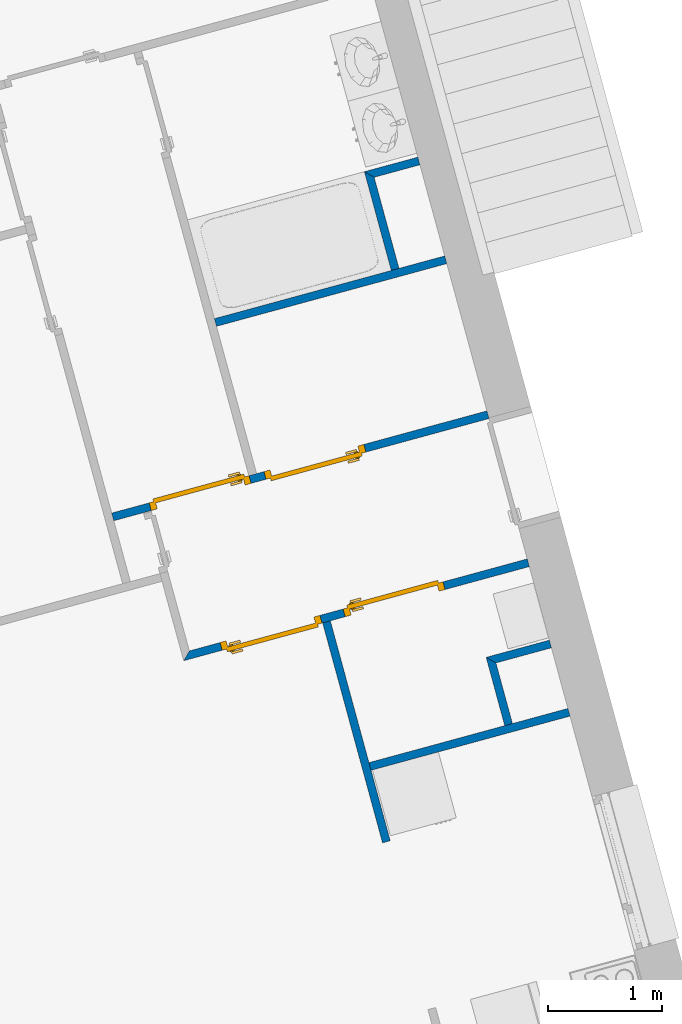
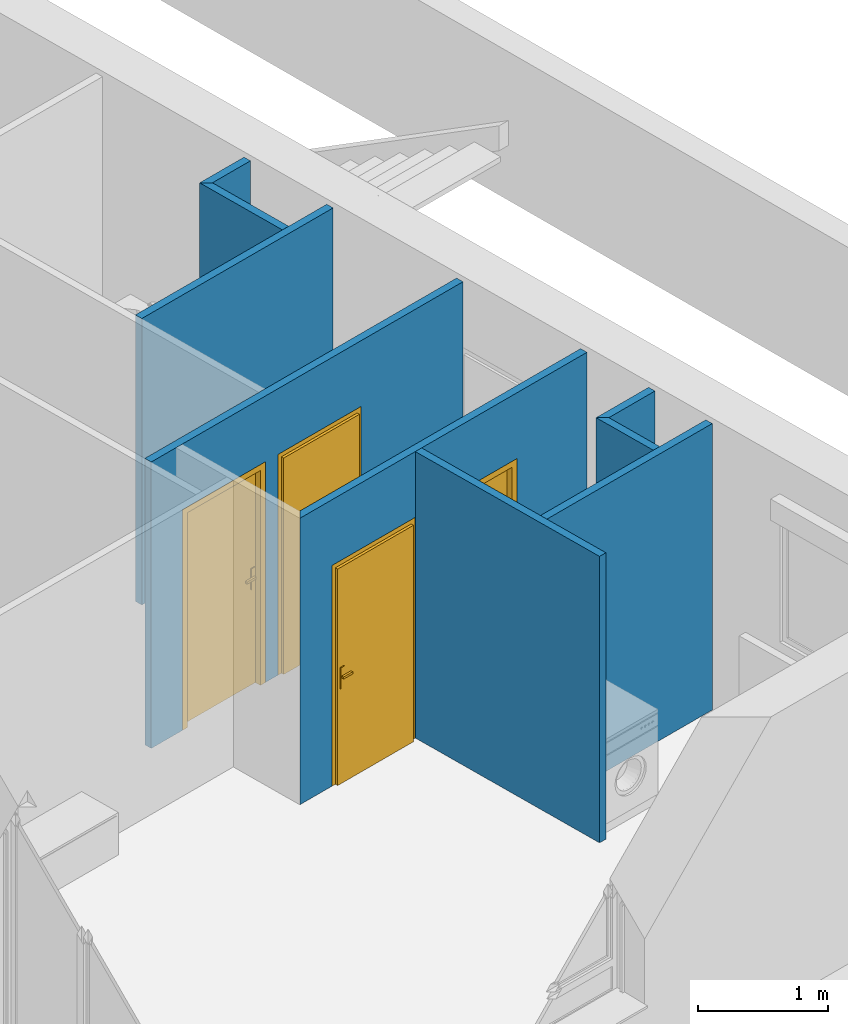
# One storey, part 80 of 195: 9 walls, 4 doors, 4 openings.
"""IFC2X3 building model written with IfcOpenShell, lengths in metres."""

import ifcopenshell
import ifcopenshell.guid

model = None  # the IFC model being written
_history = None  # IfcOwnerHistory: only IFC2X3 demands one
_inside = {}  # id of a spatial element -> (the spatial element, [elements in it])
_under = {}  # id of a project, library or spatial element -> (it, [spatial elements below it])
_declared = {}  # id of a project -> (the project, [libraries it declares])
_typed = {}  # id of a type object -> (the type object, [elements of that type])
_made_of = {}  # id of a material, layer set ... -> (it, [elements and type objects made of it])


def new_model(schema):
    """Start an empty IFC model of exactly this schema.

    Asked for "IFC4X3", IfcOpenShell would pick the latest addendum, in which some entities
    have other attributes; the version numbers below select the first issue.
    IFC2X3 requires an IfcOwnerHistory on every rooted entity: one is made here for all.
    """
    global model, _history
    if schema == "IFC4X3":
        model = ifcopenshell.file(schema_version=(4, 3, 0, 0))
    else:
        model = ifcopenshell.file(schema=schema)
    _inside.clear()
    _under.clear()
    _declared.clear()
    _typed.clear()
    _made_of.clear()
    _history = None
    if model.schema == "IFC2X3":
        org = make("IfcOrganization", Name="unknown")
        user = make(
            "IfcPersonAndOrganization",
            ThePerson=make("IfcPerson", FamilyName="unknown"),
            TheOrganization=org,
        )
        app = make(
            "IfcApplication",
            ApplicationDeveloper=org,
            Version="unknown",
            ApplicationFullName="unknown",
            ApplicationIdentifier="unknown",
        )
        _history = make(
            "IfcOwnerHistory",
            OwningUser=user,
            OwningApplication=app,
            ChangeAction="ADDED",
            CreationDate=0,
        )
    return model


def make(cls, **values):
    """One entity of the class cls with the attributes given. An attribute that is None is left unset."""
    return model.create_entity(
        cls, **{name: value for name, value in values.items() if value is not None}
    )


def entity(cls, *values):
    """Any entity or typed value of the class cls, its attributes in the order of the schema. None: left unset."""
    e = model.create_entity(cls)
    for i, value in enumerate(values):
        if value is not None:
            e[i] = value
    return e


def rooted(cls, **values):
    """An entity with a GlobalId (a new one), such as an element, a storey or a relation."""
    return make(cls, GlobalId=ifcopenshell.guid.new(), OwnerHistory=_history, **values)


def si_unit(unit_type, name, prefix=None):
    """IfcSIUnit, for example si_unit("LENGTHUNIT", "METRE", prefix="MILLI")."""
    return make("IfcSIUnit", UnitType=unit_type, Prefix=prefix, Name=name)


def converted_unit(unit_type, name, factor, base, dimensions=None, offset=None):
    """IfcConversionBasedUnit, such as the inch: factor (a typed value) times the base unit."""
    return make(
        "IfcConversionBasedUnit"
        if offset is None
        else "IfcConversionBasedUnitWithOffset",
        ConversionOffset=offset,
        Dimensions=None
        if dimensions is None
        else entity("IfcDimensionalExponents", *dimensions),
        UnitType=unit_type,
        Name=name,
        ConversionFactor=make(
            "IfcMeasureWithUnit", ValueComponent=factor, UnitComponent=base
        ),
    )


def derived_unit(unit_type, elements):
    """IfcDerivedUnit: a product of units, each with its exponent."""
    return make(
        "IfcDerivedUnit",
        Elements=[
            make("IfcDerivedUnitElement", Unit=unit, Exponent=power)
            for unit, power in elements
        ],
        UnitType=unit_type,
    )


def money_unit(currency):
    """IfcMonetaryUnit."""
    return make("IfcMonetaryUnit", Currency=currency)


def assignment(units):
    """IfcUnitAssignment: the units of a project."""
    return None if units is None else make("IfcUnitAssignment", Units=units)


def point(xyz):
    """IfcCartesianPoint."""
    return None if xyz is None else make("IfcCartesianPoint", Coordinates=xyz)


def direction(xyz):
    """IfcDirection."""
    return None if xyz is None else make("IfcDirection", DirectionRatios=xyz)


def frame(location, z_axis=None, x_axis=None):
    """IfcAxis2Placement3D, a coordinate frame: its origin and axes. An axis left out is left unset."""
    return make(
        "IfcAxis2Placement3D",
        Location=point(location),
        Axis=direction(z_axis),
        RefDirection=direction(x_axis),
    )


def frame_2d(location, x_axis=None):
    """IfcAxis2Placement2D, a coordinate frame in the plane: its origin and x axis."""
    return make(
        "IfcAxis2Placement2D", Location=point(location), RefDirection=direction(x_axis)
    )


def origin_with_axes():
    """The frame at (0, 0, 0) with the z axis (0, 0, 1) and the x axis (1, 0, 0) written out."""
    return frame((0.0, 0.0, 0.0), z_axis=(0.0, 0.0, 1.0), x_axis=(1.0, 0.0, 0.0))


def origin_2d_with_axis():
    """The frame at (0, 0) in the plane with the x axis (1, 0) written out."""
    return frame_2d((0.0, 0.0), x_axis=(1.0, 0.0))


def place(relative_to, where):
    """IfcLocalPlacement: puts the frame where relative to a parent placement (None: the world)."""
    return make(
        "IfcLocalPlacement", PlacementRelTo=relative_to, RelativePlacement=where
    )


def context(
    kind, dimensions, precision=None, world=None, true_north=None, identifier=None
):
    """IfcGeometricRepresentationContext, for example the 3D "Model" context."""
    return make(
        "IfcGeometricRepresentationContext",
        ContextIdentifier=identifier,
        ContextType=kind,
        CoordinateSpaceDimension=dimensions,
        Precision=precision,
        WorldCoordinateSystem=world,
        TrueNorth=true_north,
    )


def subcontext(parent, identifier, kind, view, scale=None):
    """IfcGeometricRepresentationSubContext, for example "Body" below "Model"."""
    return make(
        "IfcGeometricRepresentationSubContext",
        ContextIdentifier=identifier,
        ContextType=kind,
        ParentContext=parent,
        TargetScale=scale,
        TargetView=view,
    )


def project(units=None, contexts=None):
    """IfcProject with its units and contexts."""
    return rooted(
        "IfcProject",
        Name="project",
        RepresentationContexts=contexts,
        UnitsInContext=assignment(units),
    )


def spatial(cls, under=None, at=None, **own):
    """A site, building, storey or space (cls), placed at a placement, below another one or the project."""
    s = rooted(cls, ObjectPlacement=at, **own)
    if under is not None:
        _under.setdefault(under.id(), (under, []))[1].append(s)
    return s


def polyline(points):
    """IfcPolyline through the points."""
    return make("IfcPolyline", Points=[point(p) for p in points])


def profile(cls, at=None, kind="AREA", **sizes):
    """A parametric profile (cls). Its sizes go by their IFC names, for example OverallWidth=200.0."""
    return make(cls, ProfileType=kind, Position=at, **sizes)


def rectangle(**sizes):
    """IfcRectangleProfileDef."""
    return profile("IfcRectangleProfileDef", **sizes)


def outline(outer, holes=None, kind="AREA"):
    """IfcArbitraryClosedProfileDef: a profile drawn as a closed curve; with holes, ...WithVoids."""
    if holes is None:
        return make("IfcArbitraryClosedProfileDef", ProfileType=kind, OuterCurve=outer)
    return make(
        "IfcArbitraryProfileDefWithVoids",
        ProfileType=kind,
        OuterCurve=outer,
        InnerCurves=holes,
    )


def extrude(swept, where, along, depth):
    """IfcExtrudedAreaSolid: the profile swept, set in the frame where, extruded along a direction by depth."""
    return make(
        "IfcExtrudedAreaSolid",
        SweptArea=swept,
        Position=where,
        ExtrudedDirection=direction(along),
        Depth=depth,
    )


def faces_of(points, faces, orient=None, outer=None):
    """IfcFace entities. A face is a list of loops; a loop is a list of indices into points, from 0.

    orient and outer hold one flag for each loop. By default every Orientation is true, the
    first loop of a face is its IfcFaceOuterBound and the others are IfcFaceBound.
    """
    made = []
    for i, loops in enumerate(faces):
        bounds = []
        for j, loop in enumerate(loops):
            is_outer = j == 0 if outer is None else outer[i][j]
            bounds.append(
                make(
                    "IfcFaceOuterBound" if is_outer else "IfcFaceBound",
                    Bound=make("IfcPolyLoop", Polygon=[points[k] for k in loop]),
                    Orientation=True if orient is None else orient[i][j],
                )
            )
        made.append(make("IfcFace", Bounds=bounds))
    return made


def faceted_brep(points, faces, orient=None, outer=None, voids=None):
    """IfcFacetedBrep: a solid bounded by flat faces; with voids (closed shells), ...WithVoids."""
    shared = [point(p) for p in points]
    hull = make("IfcClosedShell", CfsFaces=faces_of(shared, faces, orient, outer))
    if voids is None:
        return make("IfcFacetedBrep", Outer=hull)
    return make(
        "IfcFacetedBrepWithVoids",
        Outer=hull,
        Voids=[
            make(cls, CfsFaces=faces_of(shared, fs, o, b)) for cls, fs, o, b in voids
        ],
    )


def shape(context_of_items, identifier, shape_type, items):
    """IfcShapeRepresentation: the items that make up one representation, for example the "Body"."""
    return make(
        "IfcShapeRepresentation",
        ContextOfItems=context_of_items,
        RepresentationIdentifier=identifier,
        RepresentationType=shape_type,
        Items=items,
    )


def source(mapping_origin, context_of_items, identifier, shape_type, items):
    """IfcRepresentationMap: a shape defined once, which mapped items show again and again."""
    return make(
        "IfcRepresentationMap",
        MappingOrigin=mapping_origin,
        MappedRepresentation=shape(context_of_items, identifier, shape_type, items),
    )


def transform(
    local_origin,
    x_axis=None,
    y_axis=None,
    z_axis=None,
    scale=None,
    scale2=None,
    scale3=None,
    uniform=True,
):
    """IfcCartesianTransformationOperator3D, or its non-uniform kind. x_axis, y_axis, z_axis: its Axis1, 2, 3."""
    if uniform:
        return make(
            "IfcCartesianTransformationOperator3D",
            Axis1=direction(x_axis),
            Axis2=direction(y_axis),
            LocalOrigin=point(local_origin),
            Scale=scale,
            Axis3=direction(z_axis),
        )
    return make(
        "IfcCartesianTransformationOperator3DnonUniform",
        Axis1=direction(x_axis),
        Axis2=direction(y_axis),
        LocalOrigin=point(local_origin),
        Scale=scale,
        Axis3=direction(z_axis),
        Scale2=scale2,
        Scale3=scale3,
    )


def mapped(mapping_source, mapping_target):
    """IfcMappedItem: shows the shape of a source again, moved by a transform."""
    return make(
        "IfcMappedItem", MappingSource=mapping_source, MappingTarget=mapping_target
    )


def material(Name=None, Category=None):
    """IfcMaterial."""
    return make("IfcMaterial", Name=Name, Category=Category)


def layer(
    of_material, thickness, ventilated=None, Name=None, Category=None, Priority=None
):
    """IfcMaterialLayer: one layer of a wall or slab, of a material (None: an air gap)."""
    return make(
        "IfcMaterialLayer",
        Material=of_material,
        LayerThickness=thickness,
        IsVentilated=ventilated,
        Name=Name,
        Category=Category,
        Priority=Priority,
    )


def layer_set(layers, Name=None):
    """IfcMaterialLayerSet."""
    return make("IfcMaterialLayerSet", MaterialLayers=layers, LayerSetName=Name)


def layer_usage(for_layer_set, set_direction, sense, offset, extent=None):
    """IfcMaterialLayerSetUsage: how a layer set lies in its element."""
    return make(
        "IfcMaterialLayerSetUsage",
        ForLayerSet=for_layer_set,
        LayerSetDirection=set_direction,
        DirectionSense=sense,
        OffsetFromReferenceLine=offset,
        ReferenceExtent=extent,
    )


def made_of(thing, what):
    """Note that an element or type object is made of a material, layer set ...; save() writes the relation."""
    if what is not None:
        _made_of.setdefault(what.id(), (what, []))[1].append(thing)
    return thing


def type_object(cls, material=None, **own):
    """A type object (cls), such as IfcWallType, which elements share."""
    return made_of(rooted(cls, **own), material)


def element(
    cls,
    number,
    at=None,
    inside=None,
    cuts=None,
    type_object=None,
    material=None,
    context=None,
    identifier="Body",
    shape_type=None,
    held_by="IfcProductDefinitionShape",
    body=None,
    shapes=None,
    **own,
):
    """One element of the class cls, such as IfcWall. Its Tag is "e" and its number.

    at: its placement. inside: the storey or other place that contains it. cuts: it is an
    opening in that element (IfcRelVoidsElement). A single representation is given by context,
    identifier, shape_type and body (its items); several are given by shapes. held_by: the class
    of the entity that holds the representations. save() writes the other relations.
    """
    e = rooted(cls, Tag="e%d" % number, ObjectPlacement=at, **own)
    if body is not None:
        shapes = [shape(context, identifier, shape_type, body)]
    if shapes is not None:
        e.Representation = make(held_by, Representations=shapes)
    if inside is not None:
        _inside.setdefault(inside.id(), (inside, []))[1].append(e)
    if cuts is not None:
        rooted(
            "IfcRelVoidsElement", RelatingBuildingElement=cuts, RelatedOpeningElement=e
        )
    if type_object is not None:
        _typed.setdefault(type_object.id(), (type_object, []))[1].append(e)
    return made_of(e, material)


def fill(opening, filler):
    """IfcRelFillsElement: the door or window that sits in an opening."""
    return rooted(
        "IfcRelFillsElement",
        RelatingOpeningElement=opening,
        RelatedBuildingElement=filler,
    )


def aggregate(whole, parts):
    """IfcRelAggregates: a whole, such as a stair, and the parts it consists of."""
    return rooted("IfcRelAggregates", RelatingObject=whole, RelatedObjects=parts)


def save(model, path):
    """Write the relations noted so far, then the file.

    IfcRelAggregates (storeys below a building ...), IfcRelContainedInSpatialStructure (elements
    in a storey), IfcRelDefinesByType, IfcRelAssociatesMaterial and IfcRelDeclares: one each for
    every whole, place, type object, material and project.
    """
    for whole, parts in _under.values():
        aggregate(whole, parts)
    for where, things in _inside.values():
        rooted(
            "IfcRelContainedInSpatialStructure",
            RelatedElements=things,
            RelatingStructure=where,
        )
    for kind, things in _typed.values():
        rooted("IfcRelDefinesByType", RelatedObjects=things, RelatingType=kind)
    for what, things in _made_of.values():
        rooted("IfcRelAssociatesMaterial", RelatedObjects=things, RelatingMaterial=what)
    for by, libraries in _declared.values():
        rooted("IfcRelDeclares", RelatingContext=by, RelatedDefinitions=libraries)
    model.write(path)


model = new_model("IFC2X3")

# Units and contexts
model_context = context("Model", 3, precision=1e-05, world=origin_with_axes(), true_north=direction((0.0, 1.0)))
body_context = subcontext(model_context, "Body", "Model", "MODEL_VIEW")
ifc_project = project(units=[si_unit("LENGTHUNIT", "METRE"), si_unit("AREAUNIT", "SQUARE_METRE"), si_unit("VOLUMEUNIT", "CUBIC_METRE"), converted_unit("PLANEANGLEUNIT", "DEGREE", entity("IfcPlaneAngleMeasure", 0.0174532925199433), si_unit("PLANEANGLEUNIT", "RADIAN"), dimensions=[0, 0, 0, 0, 0, 0, 0]), money_unit("CHF"), converted_unit("TIMEUNIT", "Year", entity("IfcTimeMeasure", 31557600.0), si_unit("TIMEUNIT", "SECOND"), dimensions=[0, 0, 1, 0, 0, 0, 0]), si_unit("MASSUNIT", "GRAM", prefix="KILO"), si_unit("THERMODYNAMICTEMPERATUREUNIT", "DEGREE_CELSIUS"), si_unit("LUMINOUSINTENSITYUNIT", "LUMEN"), si_unit("ENERGYUNIT", "JOULE", prefix="MEGA"), derived_unit("THERMALCONDUCTANCEUNIT", [(si_unit("POWERUNIT", "WATT"), 1), (si_unit("LENGTHUNIT", "METRE"), -1), (si_unit("THERMODYNAMICTEMPERATUREUNIT", "KELVIN"), -1)]), derived_unit("SPECIFICHEATCAPACITYUNIT", [(si_unit("ENERGYUNIT", "JOULE"), 1), (si_unit("MASSUNIT", "GRAM", prefix="KILO"), -1), (si_unit("THERMODYNAMICTEMPERATUREUNIT", "KELVIN"), -1)]), derived_unit("MASSDENSITYUNIT", [(si_unit("MASSUNIT", "GRAM", prefix="KILO"), 1), (si_unit("VOLUMEUNIT", "CUBIC_METRE"), -1)])], contexts=[model_context])

# Site, building, storey
site_placement = place(None, origin_with_axes())
site = spatial("IfcSite", under=ifc_project, at=site_placement, Name="Site", CompositionType="ELEMENT")
building_placement = place(site_placement, origin_with_axes())
building = spatial("IfcBuilding", under=site, at=building_placement, Name="Bâtiment", CompositionType="ELEMENT")
storey_placement = place(building_placement, origin_with_axes())
storey = spatial("IfcBuildingStorey", under=building, at=storey_placement, Name="rdc", CompositionType="ELEMENT", Elevation=0.0)

# Walls
ifc_material = material(Name="Hachure solide 268963992")
ifc_layer = layer(ifc_material, 0.07, ventilated="UNKNOWN")
ifc_layer_set = layer_set([ifc_layer], Name="Cloison 70 0826278243")
ifc_layer_usage_1 = layer_usage(ifc_layer_set, "AXIS2", "NEGATIVE", 0.0)
wall_type = type_object("IfcWallType", Name="Cloison 70 0826278243 70", PredefinedType="NOTDEFINED")
wall_1_placement = place(storey_placement, frame((9594.223860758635, -1049.735688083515, 57.7), z_axis=(0.0, 0.0, 1.0), x_axis=(0.2627340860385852, -0.9648682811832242, 0.0)))
element("IfcWallStandardCase", 1, at=wall_1_placement, inside=storey, type_object=wall_type, material=ifc_layer_usage_1, Name="Mur-149", context=body_context, shape_type="SweptSolid", body=[
    extrude(outline(polyline([(-0.06999999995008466, -0.07000000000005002), (0.8299999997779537, -0.07000000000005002), (0.829999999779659, 0.0), (0.0, 0.0), (-0.06999999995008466, -0.07000000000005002)])), origin_with_axes(), (0.0, 0.0, 1.0), 2.7),
])
ifc_layer_usage_2 = layer_usage(ifc_layer_set, "AXIS2", "NEGATIVE", 0.0)
wall_2_placement = place(storey_placement, frame((9594.992873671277, -1049.526285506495, 57.7), z_axis=(0.0, 0.0, 1.0), x_axis=(-0.9648682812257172, -0.2627340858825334, 0.0)))
element("IfcWallStandardCase", 2, at=wall_2_placement, inside=storey, type_object=wall_type, material=ifc_layer_usage_2, Name="Mur-149", context=body_context, shape_type="SweptSolid", body=[
    extrude(outline(polyline([(0.3800000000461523, -0.07000000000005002), (0.8670133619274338, -0.07000000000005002), (0.7970133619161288, 0.0), (0.3800000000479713, 0.0), (0.3800000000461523, -0.07000000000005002)])), origin_with_axes(), (0.0, 0.0, 1.0), 2.7),
])
ifc_layer_usage_3 = layer_usage(ifc_layer_set, "AXIS2", "NEGATIVE", 0.0)
wall_3_placement = place(storey_placement, frame((9595.371735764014, -1054.555838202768, 57.7), z_axis=(0.0, 0.0, 1.0), x_axis=(-0.2627340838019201, 0.9648682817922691, 0.0)))
element("IfcWallStandardCase", 3, at=wall_3_placement, inside=storey, type_object=wall_type, material=ifc_layer_usage_3, Name="Mur-149", context=body_context, shape_type="SweptSolid", body=[
    extrude(outline(polyline([(0.0, -0.07000000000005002), (0.5522261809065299, -0.06999999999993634), (0.6222241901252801, 0.0), (0.0, 0.0), (0.0, -0.07000000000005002)])), origin_with_axes(), (0.0, 0.0, 1.0), 2.7),
])
ifc_layer_usage_4 = layer_usage(ifc_layer_set, "AXIS2", "NEGATIVE", 0.0)
wall_4_placement = place(storey_placement, frame((9595.229334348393, -1050.394666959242, 57.7), z_axis=(0.0, 0.0, 1.0), x_axis=(-0.9648682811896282, -0.2627340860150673, 0.0)))
element("IfcWallStandardCase", 4, at=wall_4_placement, inside=storey, type_object=wall_type, material=ifc_layer_usage_4, Name="Mur-149", context=body_context, shape_type="SweptSolid", body=[
    extrude(outline(polyline([(0.379999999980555, -0.06999999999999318), (2.478769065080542, -0.06999999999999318), (2.478769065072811, 0.0), (0.3799999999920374, 0.0), (0.379999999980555, -0.06999999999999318)])), origin_with_axes(), (0.0, 0.0, 1.0), 2.7),
])
ifc_layer_usage_5 = layer_usage(ifc_layer_set, "AXIS2", "NEGATIVE", 0.0)
wall_5_placement = place(storey_placement, frame((9593.83852353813, -1053.634114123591, 57.7), z_axis=(0.0, 0.0, 1.0), x_axis=(0.2627340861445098, -0.9648682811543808, 0.0)))
element("IfcWallStandardCase", 5, at=wall_5_placement, inside=storey, type_object=wall_type, material=ifc_layer_usage_5, Name="Mur-149", context=body_context, shape_type="SweptSolid", body=[
    extrude(outline(polyline([(-9.503082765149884e-10, -0.06999999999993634), (2.003969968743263, -0.06999999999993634), (2.003969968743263, 0.0), (-9.370637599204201e-10, 0.0), (-9.503082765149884e-10, -0.06999999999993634)])), origin_with_axes(), (0.0, 0.0, 1.0), 2.7),
])

# Wall, openings, doors
ifc_layer_usage_6 = layer_usage(ifc_layer_set, "AXIS2", "NEGATIVE", 0.0)
wall_6_placement = place(storey_placement, frame((9595.600242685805, -1051.756795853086, 57.7), z_axis=(0.0, 0.0, 1.0), x_axis=(-0.9648682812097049, -0.2627340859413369, 0.0)))
wall_6 = element("IfcWallStandardCase", 6, at=wall_6_placement, inside=storey, type_object=wall_type, material=ifc_layer_usage_6, Name="Mur-149", context=body_context, shape_type="SweptSolid", body=[
    extrude(outline(polyline([(0.3800000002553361, -0.06999999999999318), (3.79876906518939, -0.06999999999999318), (3.798769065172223, 0.0), (0.3800000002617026, 0.0), (0.3800000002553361, -0.06999999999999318)])), origin_with_axes(), (0.0, 0.0, 1.0), 2.7),
])
opening_1_placement = place(wall_6_placement, frame((3.002404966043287, 0.0, 0.0), z_axis=(0.0, 0.0, 1.0), x_axis=(1.0, 0.0, 0.0)))
opening_1 = element("IfcOpeningElement", 7, at=opening_1_placement, cuts=wall_6, Name="Por-299", context=body_context, shape_type="SweptSolid", body=[
    extrude(rectangle(XDim=0.9099999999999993, YDim=2.079999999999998, at=origin_2d_with_axis()), frame((0.0, 0.06999999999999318, 1.039999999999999), z_axis=(0.0, 1.0, 0.0), x_axis=(1.0, 0.0, 0.0)), (0.0, 0.0, -1.0), 0.14),
])
opening_2_placement = place(wall_6_placement, frame((1.956257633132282, 0.0, 0.0), z_axis=(0.0, 0.0, 1.0), x_axis=(1.0, 0.0, 0.0)))
opening_2 = element("IfcOpeningElement", 8, at=opening_2_placement, cuts=wall_6, Name="Por-299", context=body_context, shape_type="SweptSolid", body=[
    extrude(rectangle(XDim=0.9099999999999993, YDim=2.079999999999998, at=origin_2d_with_axis()), frame((0.0, -0.06999999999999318, 1.039999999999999), z_axis=(0.0, 1.0, 0.0), x_axis=(1.0, 0.0, 0.0)), (0.0, 0.0, 1.0), 0.14),
])
door_style = type_object("IfcDoorStyle", Name="Porte_1v", ConstructionType="NOTDEFINED", OperationType="NOTDEFINED", ParameterTakesPrecedence=False, Sizeable=False)
shared_shape_1 = source(origin_with_axes(), body_context, "Body", "Brep", [
    faceted_brep([(0.455, 0.0, 0.0), (0.415, 0.0, 0.0), (0.415, 0.0, 2.04), (-0.415, 0.0, 2.04), (-0.415, 0.0, 0.0), (-0.455, 0.0, 0.0), (-0.455, 0.0, 2.08), (0.455, 0.0, 2.08), (0.455, -0.07, 0.0), (0.4, -0.07, 0.0), (0.4, -0.015, 0.0), (0.415, -0.015, 0.0), (0.415, -0.015, 2.04), (-0.415, -0.015, 2.04), (-0.415, -0.015, 0.0), (-0.4, -0.015, 0.0), (-0.4, -0.07, 0.0), (-0.455, -0.07, 0.0), (-0.455, -0.07, 2.08), (0.455, -0.07, 2.08), (-0.4, -0.07, 2.025), (0.4, -0.07, 2.025), (0.4, -0.015, 2.025), (-0.4, -0.015, 2.025)], [[[0, 1, 2, 3, 4, 5, 6, 7]], [[0, 8, 9, 10, 11, 1]], [[1, 11, 12, 2]], [[2, 12, 13, 3]], [[3, 13, 14, 4]], [[5, 4, 14, 15, 16, 17]], [[18, 6, 5, 17]], [[19, 7, 6, 18]], [[8, 0, 7, 19]], [[9, 8, 19, 18, 17, 16, 20, 21]], [[10, 9, 21, 22]], [[11, 10, 22, 23, 15, 14, 13, 12]], [[23, 20, 16, 15]], [[22, 21, 20, 23]]]),
    faceted_brep([(-0.35, -0.015, 0.9), (-0.39, -0.015, 0.9), (-0.39, -0.015, 1.1), (-0.35, -0.015, 1.1), (-0.35, -0.025, 0.9), (-0.39, -0.025, 0.9), (-0.39, -0.025, 1.1), (-0.35, -0.025, 1.1)], [[[0, 1, 2, 3]], [[1, 0, 4, 5]], [[2, 1, 5, 6]], [[3, 2, 6, 7]], [[0, 3, 7, 4]], [[5, 4, 7, 6]]]),
    faceted_brep([(-0.28, -0.025, 1.0), (-0.38, -0.025, 1.0), (-0.38, -0.025, 1.02), (-0.28, -0.025, 1.02), (-0.28, -0.045, 1.0), (-0.38, -0.045, 1.0), (-0.38, -0.045, 1.02), (-0.28, -0.045, 1.02)], [[[0, 1, 2, 3]], [[1, 0, 4, 5]], [[2, 1, 5, 6]], [[3, 2, 6, 7]], [[0, 3, 7, 4]], [[5, 4, 7, 6]]]),
    faceted_brep([(-0.35, 0.035, 0.9), (-0.39, 0.035, 0.9), (-0.39, 0.035, 1.1), (-0.35, 0.035, 1.1), (-0.35, 0.025, 0.9), (-0.39, 0.025, 0.9), (-0.39, 0.025, 1.1), (-0.35, 0.025, 1.1)], [[[0, 1, 2, 3]], [[1, 0, 4, 5]], [[2, 1, 5, 6]], [[3, 2, 6, 7]], [[0, 3, 7, 4]], [[5, 4, 7, 6]]]),
    faceted_brep([(-0.28, 0.05500000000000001, 1.0), (-0.38, 0.05500000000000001, 1.0), (-0.38, 0.05500000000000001, 1.02), (-0.28, 0.05500000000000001, 1.02), (-0.28, 0.035, 1.0), (-0.38, 0.035, 1.0), (-0.38, 0.035, 1.02), (-0.28, 0.035, 1.02)], [[[0, 1, 2, 3]], [[1, 0, 4, 5]], [[2, 1, 5, 6]], [[3, 2, 6, 7]], [[0, 3, 7, 4]], [[5, 4, 7, 6]]]),
    faceted_brep([(-0.415, 0.025, 0.0), (0.415, 0.025, 0.0), (0.415, -0.015, 0.0), (-0.415, -0.015, 0.0), (-0.415, 0.025, 2.04), (0.415, 0.025, 2.04), (0.415, -0.015, 2.04), (-0.415, -0.015, 2.04)], [[[0, 1, 2, 3]], [[0, 4, 5, 1]], [[1, 5, 6, 2]], [[3, 2, 6, 7]], [[4, 0, 3, 7]], [[5, 4, 7, 6]]]),
])
door_1_placement = place(opening_2_placement, frame((-0.4150000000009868, 0.0, 0.0), z_axis=(0.0, 0.0, 1.0), x_axis=(1.0, 0.0, 0.0)))
door_1 = element("IfcDoor", 9, at=door_1_placement, inside=storey, type_object=door_style, Name="Por-299", OverallHeight=2.04, OverallWidth=0.83, context=body_context, shape_type="MappedRepresentation", body=[
    mapped(shared_shape_1, transform((0.4150000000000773, 0.0, 0.0))),
])
fill(opening_2, door_1)
shared_shape_2 = source(origin_with_axes(), body_context, "Body", "Brep", [
    faceted_brep([(-0.455, 0.0, 0.0), (-0.455, 0.0, 2.08), (0.455, 0.0, 2.08), (0.455, 0.0, 0.0), (0.415, 0.0, 0.0), (0.415, 0.0, 2.04), (-0.415, 0.0, 2.04), (-0.415, 0.0, 0.0), (-0.455, -0.07, 0.0), (-0.455, -0.07, 2.08), (0.455, -0.07, 2.08), (0.455, -0.07, 0.0), (0.4, -0.07, 0.0), (0.4, -0.015, 0.0), (0.415, -0.015, 0.0), (0.415, -0.015, 2.04), (-0.415, -0.015, 2.04), (-0.415, -0.015, 0.0), (-0.4, -0.015, 0.0), (-0.4, -0.07, 0.0), (-0.4, -0.07, 2.025), (0.4, -0.07, 2.025), (0.4, -0.015, 2.025), (-0.4, -0.015, 2.025)], [[[0, 1, 2, 3, 4, 5, 6, 7]], [[8, 9, 1, 0]], [[9, 10, 2, 1]], [[10, 11, 3, 2]], [[3, 11, 12, 13, 14, 4]], [[5, 4, 14, 15]], [[6, 5, 15, 16]], [[7, 6, 16, 17]], [[0, 7, 17, 18, 19, 8]], [[19, 20, 21, 12, 11, 10, 9, 8]], [[22, 13, 12, 21]], [[17, 16, 15, 14, 13, 22, 23, 18]], [[18, 23, 20, 19]], [[23, 22, 21, 20]]]),
    faceted_brep([(0.35, -0.015, 0.9), (0.35, -0.015, 1.1), (0.39, -0.015, 1.1), (0.39, -0.015, 0.9), (0.35, -0.025, 0.9), (0.35, -0.025, 1.1), (0.39, -0.025, 1.1), (0.39, -0.025, 0.9)], [[[0, 1, 2, 3]], [[0, 4, 5, 1]], [[1, 5, 6, 2]], [[2, 6, 7, 3]], [[3, 7, 4, 0]], [[7, 6, 5, 4]]]),
    faceted_brep([(0.28, -0.025, 1.0), (0.28, -0.025, 1.02), (0.38, -0.025, 1.02), (0.38, -0.025, 1.0), (0.28, -0.045, 1.0), (0.28, -0.045, 1.02), (0.38, -0.045, 1.02), (0.38, -0.045, 1.0)], [[[0, 1, 2, 3]], [[0, 4, 5, 1]], [[1, 5, 6, 2]], [[2, 6, 7, 3]], [[3, 7, 4, 0]], [[7, 6, 5, 4]]]),
    faceted_brep([(0.35, 0.035, 0.9), (0.35, 0.035, 1.1), (0.39, 0.035, 1.1), (0.39, 0.035, 0.9), (0.35, 0.025, 0.9), (0.35, 0.025, 1.1), (0.39, 0.025, 1.1), (0.39, 0.025, 0.9)], [[[0, 1, 2, 3]], [[0, 4, 5, 1]], [[1, 5, 6, 2]], [[2, 6, 7, 3]], [[3, 7, 4, 0]], [[7, 6, 5, 4]]]),
    faceted_brep([(0.28, 0.05500000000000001, 1.0), (0.28, 0.05500000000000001, 1.02), (0.38, 0.05500000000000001, 1.02), (0.38, 0.05500000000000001, 1.0), (0.28, 0.035, 1.0), (0.28, 0.035, 1.02), (0.38, 0.035, 1.02), (0.38, 0.035, 1.0)], [[[0, 1, 2, 3]], [[0, 4, 5, 1]], [[1, 5, 6, 2]], [[2, 6, 7, 3]], [[3, 7, 4, 0]], [[7, 6, 5, 4]]]),
    faceted_brep([(0.415, 0.025, 0.0), (0.415, -0.015, 0.0), (-0.415, -0.015, 0.0), (-0.415, 0.025, 0.0), (0.415, 0.025, 2.04), (0.415, -0.015, 2.04), (-0.415, -0.015, 2.04), (-0.415, 0.025, 2.04)], [[[0, 1, 2, 3]], [[4, 5, 1, 0]], [[1, 5, 6, 2]], [[3, 2, 6, 7]], [[0, 3, 7, 4]], [[7, 6, 5, 4]]]),
])
door_2_placement = place(opening_1_placement, frame((0.4150000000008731, 0.0, 0.0), z_axis=(0.0, 0.0, 1.0), x_axis=(-1.0, 0.0, 0.0)))
door_2 = element("IfcDoor", 10, at=door_2_placement, inside=storey, type_object=door_style, Name="Por-299", OverallHeight=2.04, OverallWidth=0.83, context=body_context, shape_type="MappedRepresentation", body=[
    mapped(shared_shape_2, transform((0.4149999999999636, 0.06999999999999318, 0.0))),
])
fill(opening_1, door_2)

ifc_layer_usage_7 = layer_usage(ifc_layer_set, "AXIS2", "POSITIVE", 0.0)
wall_7_placement = place(storey_placement, frame((9592.54974256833, -1053.985049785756, 57.7), z_axis=(0.0, 0.0, 1.0), x_axis=(0.9648682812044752, 0.2627340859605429, 0.0)))
wall_7 = element("IfcWallStandardCase", 11, at=wall_7_placement, inside=storey, type_object=wall_type, material=ifc_layer_usage_7, Name="Mur-149", context=body_context, shape_type="SweptSolid", body=[
    extrude(outline(polyline([(2.247588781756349e-10, 0.0), (3.148769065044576, 0.0), (3.148769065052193, 0.06999999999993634), (0.07000000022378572, 0.06999999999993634), (2.247588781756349e-10, 0.0)])), origin_with_axes(), (0.0, 0.0, 1.0), 2.7),
])
opening_3_placement = place(wall_7_placement, frame((1.926126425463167, 0.0, 0.0), z_axis=(0.0, 0.0, 1.0), x_axis=(1.0, 0.0, 0.0)))
opening_3 = element("IfcOpeningElement", 12, at=opening_3_placement, cuts=wall_7, Name="Por-299", context=body_context, shape_type="SweptSolid", body=[
    extrude(rectangle(XDim=0.9099999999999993, YDim=2.079999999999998, at=origin_2d_with_axis()), frame((0.0, -0.07000000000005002, 1.039999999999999), z_axis=(0.0, 1.0, 0.0), x_axis=(1.0, 0.0, 0.0)), (0.0, 0.0, 1.0), 0.14),
])
opening_4_placement = place(wall_7_placement, frame((0.8050034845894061, 0.0, 0.0), z_axis=(0.0, 0.0, 1.0), x_axis=(1.0, 0.0, 0.0)))
opening_4 = element("IfcOpeningElement", 13, at=opening_4_placement, cuts=wall_7, Name="Por-299", context=body_context, shape_type="SweptSolid", body=[
    extrude(rectangle(XDim=0.9099999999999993, YDim=2.079999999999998, at=origin_2d_with_axis()), frame((0.0, 0.07000000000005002, 1.039999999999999), z_axis=(0.0, 1.0, 0.0), x_axis=(1.0, 0.0, 0.0)), (0.0, 0.0, -1.0), 0.14),
])
door_3_placement = place(opening_3_placement, frame((-0.4150000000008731, 0.0, 0.0), z_axis=(0.0, 0.0, 1.0), x_axis=(1.0, 0.0, 0.0)))
door_3 = element("IfcDoor", 14, at=door_3_placement, inside=storey, type_object=door_style, Name="Por-299", OverallHeight=2.04, OverallWidth=0.83, context=body_context, shape_type="MappedRepresentation", body=[
    mapped(shared_shape_1, transform((0.4150000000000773, 0.06999999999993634, 0.0))),
])
fill(opening_3, door_3)
door_4_placement = place(opening_4_placement, frame((0.4150000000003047, 0.0, 0.0), z_axis=(0.0, 0.0, 1.0), x_axis=(-1.0, 0.0, 0.0)))
door_4 = element("IfcDoor", 15, at=door_4_placement, inside=storey, type_object=door_style, Name="Por-299", OverallHeight=2.04, OverallWidth=0.83, context=body_context, shape_type="MappedRepresentation", body=[
    mapped(shared_shape_2, transform((0.4150000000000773, 0.0, 0.0))),
])
fill(opening_4, door_4)

# Walls
ifc_layer_usage_8 = layer_usage(ifc_layer_set, "AXIS2", "POSITIVE", 0.0)
wall_8_placement = place(storey_placement, frame((9594.196411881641, -1054.948428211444, 57.7), z_axis=(0.0, 0.0, 1.0), x_axis=(0.9648682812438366, 0.2627340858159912, 0.0)))
element("IfcWallStandardCase", 16, at=wall_8_placement, inside=storey, type_object=wall_type, material=ifc_layer_usage_8, Name="Mur-149", context=body_context, shape_type="SweptSolid", body=[
    extrude(outline(polyline([(0.0, 0.0), (1.813062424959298, 0.0), (1.813062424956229, 0.06999999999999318), (0.0, 0.06999999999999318), (0.0, 0.0)])), origin_with_axes(), (0.0, 0.0, 1.0), 2.7),
])
ifc_layer_usage_9 = layer_usage(ifc_layer_set, "AXIS2", "POSITIVE", 0.0)
wall_9_placement = place(storey_placement, frame((9595.226647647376, -1054.023014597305, 57.7), z_axis=(0.0, 0.0, 1.0), x_axis=(0.9648608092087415, 0.2627615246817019, 0.0)))
element("IfcWallStandardCase", 17, at=wall_9_placement, inside=storey, type_object=wall_type, material=ifc_layer_usage_9, Name="Mur-149", context=body_context, shape_type="SweptSolid", body=[
    extrude(outline(polyline([(0.07000000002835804, 0.0), (0.5758829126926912, 0.0), (0.5758849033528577, 0.07000000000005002), (1.990809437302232e-06, 0.07000000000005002), (0.07000000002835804, 0.0)])), origin_with_axes(), (0.0, 0.0, 1.0), 2.7),
])

save(model, "model.ifc")
